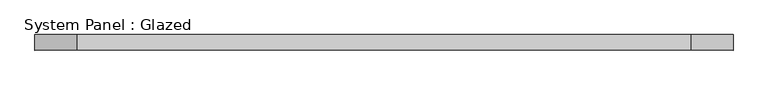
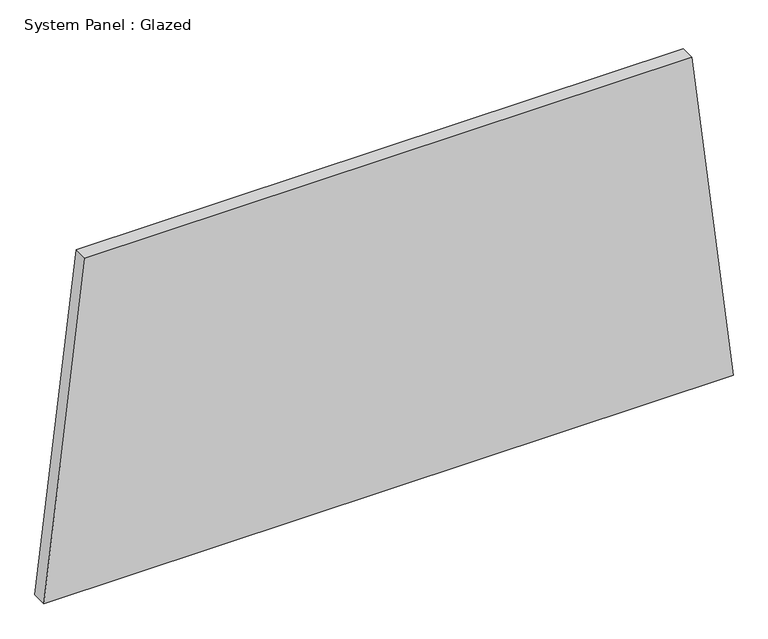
"""IFC4 building model written with IfcOpenShell, lengths in millimetres: plate geometry, System Panel : Glazed."""

import ifcopenshell
import ifcopenshell.guid

model = None  # the IFC model being written
_history = None  # IfcOwnerHistory: only IFC2X3 demands one
_inside = {}  # id of a spatial element -> (the spatial element, [elements in it])
_under = {}  # id of a project, library or spatial element -> (it, [spatial elements below it])
_declared = {}  # id of a project -> (the project, [libraries it declares])
_typed = {}  # id of a type object -> (the type object, [elements of that type])
_made_of = {}  # id of a material, layer set ... -> (it, [elements and type objects made of it])


def new_model(schema):
    """Start an empty IFC model of exactly this schema.

    Asked for "IFC4X3", IfcOpenShell would pick the latest addendum, in which some entities
    have other attributes; the version numbers below select the first issue.
    IFC2X3 requires an IfcOwnerHistory on every rooted entity: one is made here for all.
    """
    global model, _history
    if schema == "IFC4X3":
        model = ifcopenshell.file(schema_version=(4, 3, 0, 0))
    else:
        model = ifcopenshell.file(schema=schema)
    _inside.clear()
    _under.clear()
    _declared.clear()
    _typed.clear()
    _made_of.clear()
    _history = None
    if model.schema == "IFC2X3":
        org = make("IfcOrganization", Name="unknown")
        user = make(
            "IfcPersonAndOrganization",
            ThePerson=make("IfcPerson", FamilyName="unknown"),
            TheOrganization=org,
        )
        app = make(
            "IfcApplication",
            ApplicationDeveloper=org,
            Version="unknown",
            ApplicationFullName="unknown",
            ApplicationIdentifier="unknown",
        )
        _history = make(
            "IfcOwnerHistory",
            OwningUser=user,
            OwningApplication=app,
            ChangeAction="ADDED",
            CreationDate=0,
        )
    return model


def make(cls, **values):
    """One entity of the class cls with the attributes given. An attribute that is None is left unset."""
    return model.create_entity(
        cls, **{name: value for name, value in values.items() if value is not None}
    )


def rooted(cls, **values):
    """An entity with a GlobalId (a new one), such as an element, a storey or a relation."""
    return make(cls, GlobalId=ifcopenshell.guid.new(), OwnerHistory=_history, **values)


def si_unit(unit_type, name, prefix=None):
    """IfcSIUnit, for example si_unit("LENGTHUNIT", "METRE", prefix="MILLI")."""
    return make("IfcSIUnit", UnitType=unit_type, Prefix=prefix, Name=name)


def assignment(units):
    """IfcUnitAssignment: the units of a project."""
    return None if units is None else make("IfcUnitAssignment", Units=units)


def point(xyz):
    """IfcCartesianPoint."""
    return None if xyz is None else make("IfcCartesianPoint", Coordinates=xyz)


def direction(xyz):
    """IfcDirection."""
    return None if xyz is None else make("IfcDirection", DirectionRatios=xyz)


def frame(location, z_axis=None, x_axis=None):
    """IfcAxis2Placement3D, a coordinate frame: its origin and axes. An axis left out is left unset."""
    return make(
        "IfcAxis2Placement3D",
        Location=point(location),
        Axis=direction(z_axis),
        RefDirection=direction(x_axis),
    )


def origin():
    """The frame at (0, 0, 0) with its axes left unset."""
    return frame((0.0, 0.0, 0.0))


def place(relative_to, where):
    """IfcLocalPlacement: puts the frame where relative to a parent placement (None: the world)."""
    return make(
        "IfcLocalPlacement", PlacementRelTo=relative_to, RelativePlacement=where
    )


def context(
    kind, dimensions, precision=None, world=None, true_north=None, identifier=None
):
    """IfcGeometricRepresentationContext, for example the 3D "Model" context."""
    return make(
        "IfcGeometricRepresentationContext",
        ContextIdentifier=identifier,
        ContextType=kind,
        CoordinateSpaceDimension=dimensions,
        Precision=precision,
        WorldCoordinateSystem=world,
        TrueNorth=true_north,
    )


def project(units=None, contexts=None):
    """IfcProject with its units and contexts."""
    return rooted(
        "IfcProject",
        Name="project",
        RepresentationContexts=contexts,
        UnitsInContext=assignment(units),
    )


def spatial(cls, under=None, at=None, **own):
    """A site, building, storey or space (cls), placed at a placement, below another one or the project."""
    s = rooted(cls, ObjectPlacement=at, **own)
    if under is not None:
        _under.setdefault(under.id(), (under, []))[1].append(s)
    return s


def polyline(points):
    """IfcPolyline through the points."""
    return make("IfcPolyline", Points=[point(p) for p in points])


def outline(outer, holes=None, kind="AREA"):
    """IfcArbitraryClosedProfileDef: a profile drawn as a closed curve; with holes, ...WithVoids."""
    if holes is None:
        return make("IfcArbitraryClosedProfileDef", ProfileType=kind, OuterCurve=outer)
    return make(
        "IfcArbitraryProfileDefWithVoids",
        ProfileType=kind,
        OuterCurve=outer,
        InnerCurves=holes,
    )


def extrude(swept, where, along, depth):
    """IfcExtrudedAreaSolid: the profile swept, set in the frame where, extruded along a direction by depth."""
    return make(
        "IfcExtrudedAreaSolid",
        SweptArea=swept,
        Position=where,
        ExtrudedDirection=direction(along),
        Depth=depth,
    )


def shape(context_of_items, identifier, shape_type, items):
    """IfcShapeRepresentation: the items that make up one representation, for example the "Body"."""
    return make(
        "IfcShapeRepresentation",
        ContextOfItems=context_of_items,
        RepresentationIdentifier=identifier,
        RepresentationType=shape_type,
        Items=items,
    )


def source(mapping_origin, context_of_items, identifier, shape_type, items):
    """IfcRepresentationMap: a shape defined once, which mapped items show again and again."""
    return make(
        "IfcRepresentationMap",
        MappingOrigin=mapping_origin,
        MappedRepresentation=shape(context_of_items, identifier, shape_type, items),
    )


def transform(
    local_origin,
    x_axis=None,
    y_axis=None,
    z_axis=None,
    scale=None,
    scale2=None,
    scale3=None,
    uniform=True,
):
    """IfcCartesianTransformationOperator3D, or its non-uniform kind. x_axis, y_axis, z_axis: its Axis1, 2, 3."""
    if uniform:
        return make(
            "IfcCartesianTransformationOperator3D",
            Axis1=direction(x_axis),
            Axis2=direction(y_axis),
            LocalOrigin=point(local_origin),
            Scale=scale,
            Axis3=direction(z_axis),
        )
    return make(
        "IfcCartesianTransformationOperator3DnonUniform",
        Axis1=direction(x_axis),
        Axis2=direction(y_axis),
        LocalOrigin=point(local_origin),
        Scale=scale,
        Axis3=direction(z_axis),
        Scale2=scale2,
        Scale3=scale3,
    )


def mapped(mapping_source, mapping_target):
    """IfcMappedItem: shows the shape of a source again, moved by a transform."""
    return make(
        "IfcMappedItem", MappingSource=mapping_source, MappingTarget=mapping_target
    )


def made_of(thing, what):
    """Note that an element or type object is made of a material, layer set ...; save() writes the relation."""
    if what is not None:
        _made_of.setdefault(what.id(), (what, []))[1].append(thing)
    return thing


def element(
    cls,
    number,
    at=None,
    inside=None,
    cuts=None,
    type_object=None,
    material=None,
    context=None,
    identifier="Body",
    shape_type=None,
    held_by="IfcProductDefinitionShape",
    body=None,
    shapes=None,
    **own,
):
    """One element of the class cls, such as IfcWall. Its Tag is "e" and its number.

    at: its placement. inside: the storey or other place that contains it. cuts: it is an
    opening in that element (IfcRelVoidsElement). A single representation is given by context,
    identifier, shape_type and body (its items); several are given by shapes. held_by: the class
    of the entity that holds the representations. save() writes the other relations.
    """
    e = rooted(cls, Tag="e%d" % number, ObjectPlacement=at, **own)
    if body is not None:
        shapes = [shape(context, identifier, shape_type, body)]
    if shapes is not None:
        e.Representation = make(held_by, Representations=shapes)
    if inside is not None:
        _inside.setdefault(inside.id(), (inside, []))[1].append(e)
    if cuts is not None:
        rooted(
            "IfcRelVoidsElement", RelatingBuildingElement=cuts, RelatedOpeningElement=e
        )
    if type_object is not None:
        _typed.setdefault(type_object.id(), (type_object, []))[1].append(e)
    return made_of(e, material)


def aggregate(whole, parts):
    """IfcRelAggregates: a whole, such as a stair, and the parts it consists of."""
    return rooted("IfcRelAggregates", RelatingObject=whole, RelatedObjects=parts)


def save(model, path):
    """Write the relations noted so far, then the file.

    IfcRelAggregates (storeys below a building ...), IfcRelContainedInSpatialStructure (elements
    in a storey), IfcRelDefinesByType, IfcRelAssociatesMaterial and IfcRelDeclares: one each for
    every whole, place, type object, material and project.
    """
    for whole, parts in _under.values():
        aggregate(whole, parts)
    for where, things in _inside.values():
        rooted(
            "IfcRelContainedInSpatialStructure",
            RelatedElements=things,
            RelatingStructure=where,
        )
    for kind, things in _typed.values():
        rooted("IfcRelDefinesByType", RelatedObjects=things, RelatingType=kind)
    for what, things in _made_of.values():
        rooted("IfcRelAssociatesMaterial", RelatedObjects=things, RelatingMaterial=what)
    for by, libraries in _declared.values():
        rooted("IfcRelDeclares", RelatingContext=by, RelatedDefinitions=libraries)
    model.write(path)


def system_panel_glazed_af8a38da(model_context):
    return source(origin(), model_context, "Body", "SweptSolid", [
        extrude(outline(polyline([(0.0, -570.0902869), (0.0, 570.0902869), (580.0408914, 501.9847472), (580.0408914, -501.9847472), (0.0, -570.0902869)])), frame((0.0, 19.05, 0.0), z_axis=(0.0, 1.0, 0.0), x_axis=(0.0, 0.0, 1.0)), (0.0, 0.0, 1.0), 25.4),
    ])


if __name__ == "__main__":
    model = new_model("IFC4")
    model_context = context("Model", 3, world=origin())
    ifc_project = project(units=[si_unit("LENGTHUNIT", "METRE", prefix="MILLI")], contexts=[model_context])
    site = spatial("IfcSite", under=ifc_project)
    building = spatial("IfcBuilding", under=site)
    placement = place(None, origin())
    system_panel_glazed_shape = system_panel_glazed_af8a38da(model_context)
    element("IfcPlate", 1, ObjectType="System Panel : Glazed", at=placement, inside=building, context=model_context, shape_type="MappedRepresentation", body=[
        mapped(system_panel_glazed_shape, transform((0.0, 0.0, 0.0), x_axis=(1.0, 0.0, 0.0), y_axis=(0.0, 1.0, 0.0), z_axis=(0.0, 0.0, 1.0))),
    ])
    save(model, "model.ifc")
